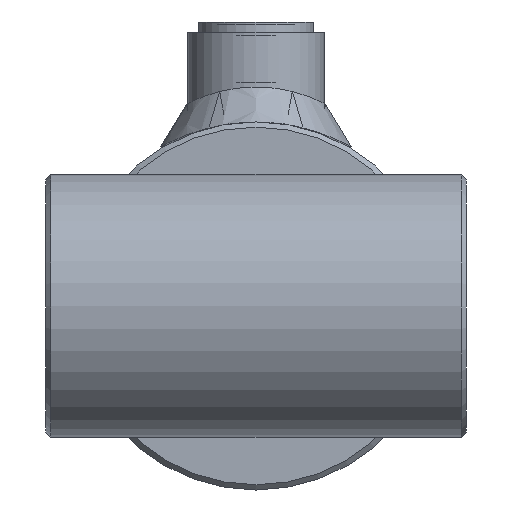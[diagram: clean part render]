
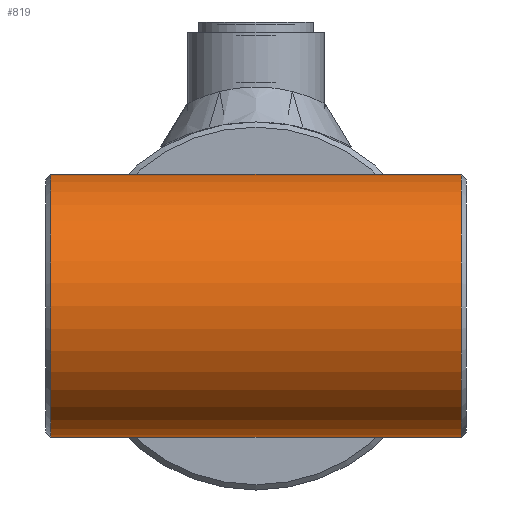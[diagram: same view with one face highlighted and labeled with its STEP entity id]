
A CAD part, left-side view. The second image highlights one B-rep face of the part: STEP entity #819.
In plain terms, the highlighted cylindrical face has radius 25 mm (diameter 50 mm), a full revolution.
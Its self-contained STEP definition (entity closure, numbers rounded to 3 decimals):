
#819 = ADVANCED_FACE( '', ( #1564, #1565 ), #1566, .T. );
#1564 = FACE_OUTER_BOUND( '', #3386, .T. );
#1565 = FACE_OUTER_BOUND( '', #3387, .T. );
#1566 = CYLINDRICAL_SURFACE( '', #3388, 25. );
#3386 = EDGE_LOOP( '', ( #12443 ) );
#3387 = EDGE_LOOP( '', ( #12444 ) );
#3388 = AXIS2_PLACEMENT_3D( '', #12445, #12446, #12447 );
#12443 = ORIENTED_EDGE( '', *, *, #13917, .T. );
#12444 = ORIENTED_EDGE( '', *, *, #13918, .T. );
#12445 = CARTESIAN_POINT( '', ( 0., -40., 0. ) );
#12446 = DIRECTION( '', ( 0., -1., 0. ) );
#12447 = DIRECTION( '', ( 0., 0., 1. ) );
#13917 = EDGE_CURVE( '', #14836, #14836, #14837, .F. );
#13918 = EDGE_CURVE( '', #14838, #14838, #14839, .T. );
#14836 = VERTEX_POINT( '', #16137 );
#14837 = CIRCLE( '', #16138, 25. );
#14838 = VERTEX_POINT( '', #16139 );
#14839 = CIRCLE( '', #16140, 25. );
#16137 = CARTESIAN_POINT( '', ( 0., 39., 25. ) );
#16138 = AXIS2_PLACEMENT_3D( '', #19044, #19045, #19046 );
#16139 = CARTESIAN_POINT( '', ( 0., -39., 25. ) );
#16140 = AXIS2_PLACEMENT_3D( '', #19047, #19048, #19049 );
#19044 = CARTESIAN_POINT( '', ( 0., 39., 0. ) );
#19045 = DIRECTION( '', ( 0., 1., 0. ) );
#19046 = DIRECTION( '', ( 0., 0., 1. ) );
#19047 = CARTESIAN_POINT( '', ( 0., -39., 0. ) );
#19048 = DIRECTION( '', ( 0., 1., 0. ) );
#19049 = DIRECTION( '', ( 0., 0., 1. ) );
